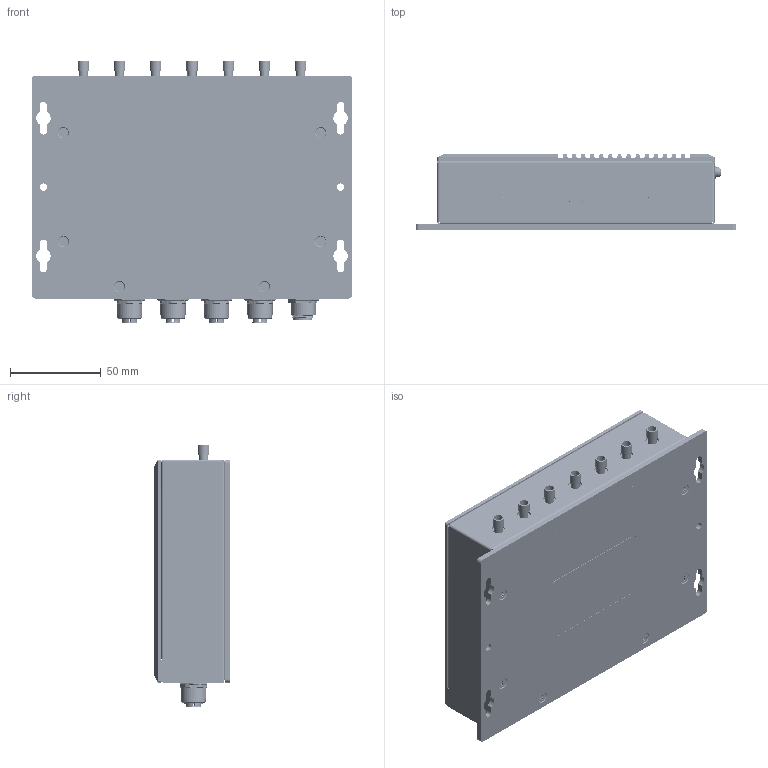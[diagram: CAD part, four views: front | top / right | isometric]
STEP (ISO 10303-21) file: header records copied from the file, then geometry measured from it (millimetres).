
FILE_DESCRIPTION((''),'2;1');
FILE_NAME('00-VR624_M12PWR_ASM-20260702_ASM','2026-10-14T14:19:42',('jiang'),(''),'CREO PARAMETRIC BY PTC INC, 2022073','CREO PARAMETRIC BY PTC INC, 2022073','');
FILE_SCHEMA(('AUTOMOTIVE_DESIGN { 1 0 10303 214 1 1 1 1 }'));
Products named in the file (75): JTPS-3MM-12_2_1; VG624-822-01_BOT_PLATE_21_1; KFE-M3-7_2_1; VR624-822-01_ASM_17_ASM_1_ASM; PCB_25_1; M12K8X_1_1_1; M12K8X_1_2_1; M12K8X_1_3_1; M12K8X_1_4_1; M12K8X_1_5_1; M12K8X_1_6_1; M12K8X_1_7_1; M12K8X_1_8_1; M12K8X_1_9_1; M12K8X_1_ASM_1_ASM; R_M12_RNM_2_1; O_XINGQUAN_D26_D1_9__2_1; R__SCREW_G5_8_RNM_2_1; R_M12-4A_RNM_ASM_1_ASM_1_ASM; M12-8-G_ASSY_ASM_1_ASM_1_ASM; C7814-01_1_2_1; C7813-34_1_2_1_1; C7813-34_1_2_2_1; C7813-34_1_2_ASM_1_ASM; ASM0001_ASM_1_ASM_1_ASM_1_ASM; C7814_ASM_1_ASM_1_ASM; 12-21C-Y2C-AP1Q2L-2C_2_1; KFC-013S-H3_4-EP_1_1; CG-112817-0153_2_1; APSS010101-SMTSOM3-5_5_1_1; CN-00349_ASM_1_1_2_1; CN-00349_ASM_1_2_4_1; CN-00349_ASM_1_3_2_1; CN-00349_ASM_1_4_3_1; CN-00349_ASM_1_5_2_1; M-MTS_08FX_T8_AF0_ASM_6_ASM_1_ASM; M-MTS_08FX_T8_AF1_ASM_6_ASM_1_ASM; M-MTS_08FX_T8_AF2_ASM_6_ASM_1_ASM; M-MTS_08FX_T8_AF3_ASM_6_ASM_1_ASM; MAIN_HSG-MODIFY_1_1_PRT_PRT_2_1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
Assembly tree (128 placements, depth 8):
  00-VR624_M12PWR_ASM-20260702_ASM
    00-VR624_ASM_M12PWR_ASM_1_ASM
      00-VR624_ASM_77_ASM_1_ASM
        VR624-822-01_ASM_17_ASM_1_ASM
          JTPS-3MM-12_2_1  x2
          VG624-822-01_BOT_PLATE_21_1
          KFE-M3-7_2_1  x4
        VR624-PCBA_ASM_82_ASM_1_ASM
          PCB_25_1
          M12-8-G_ASSY_ASM_1_ASM_1_ASM  x5
            M12K8X_1_ASM_1_ASM
              M12K8X_1_1_1
              M12K8X_1_2_1
              M12K8X_1_3_1
              M12K8X_1_4_1
              M12K8X_1_5_1
              M12K8X_1_6_1
              M12K8X_1_7_1
              M12K8X_1_8_1
              M12K8X_1_9_1
            R_M12-4A_RNM_ASM_1_ASM_1_ASM
              R_M12_RNM_2_1
              O_XINGQUAN_D26_D1_9__2_1
              R__SCREW_G5_8_RNM_2_1
          C7814_ASM_1_ASM_1_ASM
            ASM0001_ASM_1_ASM_1_ASM_1_ASM
              C7814-01_1_2_1
              C7813-34_1_2_ASM_1_ASM
                C7813-34_1_2_1_1
                C7813-34_1_2_2_1
          12-21C-Y2C-AP1Q2L-2C_2_1  x10
          KFC-013S-H3_4-EP_1_1
          CG-112817-0153_2_1  x7
          APSS010101-SMTSOM3-5_5_1_1  x4
          M-MTS_08FX_T8_AF0_ASM_6_ASM_1_ASM
            CN-00349_ASM_1_1_2_1
            CN-00349_ASM_1_2_4_1
            CN-00349_ASM_1_3_2_1
            CN-00349_ASM_1_4_3_1
            CN-00349_ASM_1_5_2_1
          M-MTS_08FX_T8_AF1_ASM_6_ASM_1_ASM
            CN-00349_ASM_1_1_2_1
            CN-00349_ASM_1_2_4_1
            CN-00349_ASM_1_3_2_1
            CN-00349_ASM_1_4_3_1
            CN-00349_ASM_1_5_2_1
          M-MTS_08FX_T8_AF2_ASM_6_ASM_1_ASM
            CN-00349_ASM_1_1_2_1
            CN-00349_ASM_1_2_4_1
            CN-00349_ASM_1_3_2_1
            CN-00349_ASM_1_4_3_1
            CN-00349_ASM_1_5_2_1
          M-MTS_08FX_T8_AF3_ASM_6_ASM_1_ASM
            CN-00349_ASM_1_1_2_1
            CN-00349_ASM_1_2_4_1
            CN-00349_ASM_1_3_2_1
            CN-00349_ASM_1_4_3_1
            CN-00349_ASM_1_5_2_1
          5G_171102_STP_ASM_AS_ASM_1_ASM__ASM
            A1_ASM_ASM_ASM_3_ASM_1_ASM_1_ASM
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Bounding box: 177 x 42 x 144.25 mm (x, y, z)
Surface area: 280632.6 mm2 (no closed solid volume)
Topology: 0 solids, 0 shells, 17012 faces, 101188 edges, 103729 vertices
Faces by surface type: plane 9244, cylinder 5537, cone 1045, torus 572, bspline 464, extrusion 80, revolution 48, sphere 22
Entity records: 924361 total; most frequent: CARTESIAN_POINT 224296, DIRECTION 110489, TRIMMED_CURVE 79828, VECTOR 72106, LINE 72074, COMPOSITE_CURVE_SEGMENT 60382, DEFINITIONAL_REPRESENTATION 59256, PCURVE 59256
